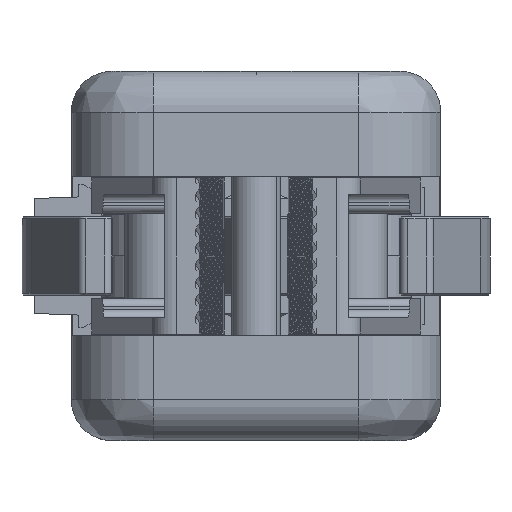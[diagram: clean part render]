
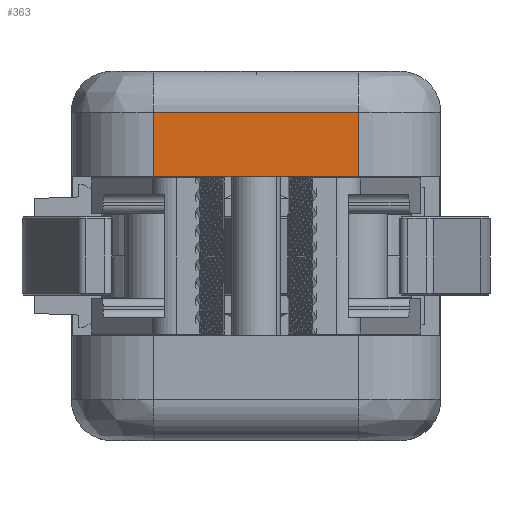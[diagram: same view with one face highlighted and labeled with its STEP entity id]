
A CAD part, left-side view. The second image highlights one B-rep face of the part: STEP entity #363.
In plain terms, the highlighted planar face has unit normal (-1, 0, 0).
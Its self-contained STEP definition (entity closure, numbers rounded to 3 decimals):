
#149 = EDGE_CURVE ( 'NONE', #18381, #16407, #40054, .T. ) ;
#363 = ADVANCED_FACE ( 'NONE', ( #26680 ), #20776, .F. ) ;
#572 = VECTOR ( 'NONE', #35897, 1000. ) ;
#742 = CARTESIAN_POINT ( 'NONE',  ( -85.327, -4.664, 67. ) ) ;
#962 = ORIENTED_EDGE ( 'NONE', *, *, #1362, .F. ) ;
#1362 = EDGE_CURVE ( 'NONE', #16407, #37092, #16828, .T. ) ;
#2797 = VERTEX_POINT ( 'NONE', #25851 ) ;
#3821 = VECTOR ( 'NONE', #38923, 1000. ) ;
#3949 = ORIENTED_EDGE ( 'NONE', *, *, #5355, .F. ) ;
#5156 = CARTESIAN_POINT ( 'NONE',  ( -85.327, -17.164, 67. ) ) ;
#5355 = EDGE_CURVE ( 'NONE', #2797, #18381, #19648, .T. ) ;
#6204 = EDGE_CURVE ( 'NONE', #37092, #2797, #27709, .T. ) ;
#8616 = CARTESIAN_POINT ( 'NONE',  ( -85.327, 7.836, 72. ) ) ;
#8729 = CARTESIAN_POINT ( 'NONE',  ( -85.327, 7.836, 67. ) ) ;
#8755 = ORIENTED_EDGE ( 'NONE', *, *, #6204, .F. ) ;
#14927 = ORIENTED_EDGE ( 'NONE', *, *, #149, .F. ) ;
#16407 = VERTEX_POINT ( 'NONE', #5156 ) ;
#16828 = LINE ( 'NONE', #17704, #572 ) ;
#17704 = CARTESIAN_POINT ( 'NONE',  ( -85.327, -17.164, 72. ) ) ;
#18381 = VERTEX_POINT ( 'NONE', #8729 ) ;
#18723 = VECTOR ( 'NONE', #39340, 1000. ) ;
#19648 = LINE ( 'NONE', #8616, #18723 ) ;
#20776 = PLANE ( 'NONE',  #33689 ) ;
#21266 = CARTESIAN_POINT ( 'NONE',  ( -85.327, -27.164, 59.2 ) ) ;
#21886 = VECTOR ( 'NONE', #29048, 1000. ) ;
#23370 = DIRECTION ( 'NONE',  ( 1., 0., 0. ) ) ;
#25851 = CARTESIAN_POINT ( 'NONE',  ( -85.327, 7.836, 59.2 ) ) ;
#26680 = FACE_OUTER_BOUND ( 'NONE', #27369, .T. ) ;
#27369 = EDGE_LOOP ( 'NONE', ( #3949, #8755, #962, #14927 ) ) ;
#27709 = LINE ( 'NONE', #21266, #3821 ) ;
#29048 = DIRECTION ( 'NONE',  ( 0., -1., 0. ) ) ;
#33119 = CARTESIAN_POINT ( 'NONE',  ( -85.327, -27.164, 72. ) ) ;
#33689 = AXIS2_PLACEMENT_3D ( 'NONE', #33119, #23370, #37052 ) ;
#35897 = DIRECTION ( 'NONE',  ( 0., 0., -1. ) ) ;
#37052 = DIRECTION ( 'NONE',  ( 0., 0., -1. ) ) ;
#37092 = VERTEX_POINT ( 'NONE', #39561 ) ;
#38923 = DIRECTION ( 'NONE',  ( 0., 1., 0. ) ) ;
#39340 = DIRECTION ( 'NONE',  ( 0., 0., 1. ) ) ;
#39561 = CARTESIAN_POINT ( 'NONE',  ( -85.327, -17.164, 59.2 ) ) ;
#40054 = LINE ( 'NONE', #742, #21886 ) ;
